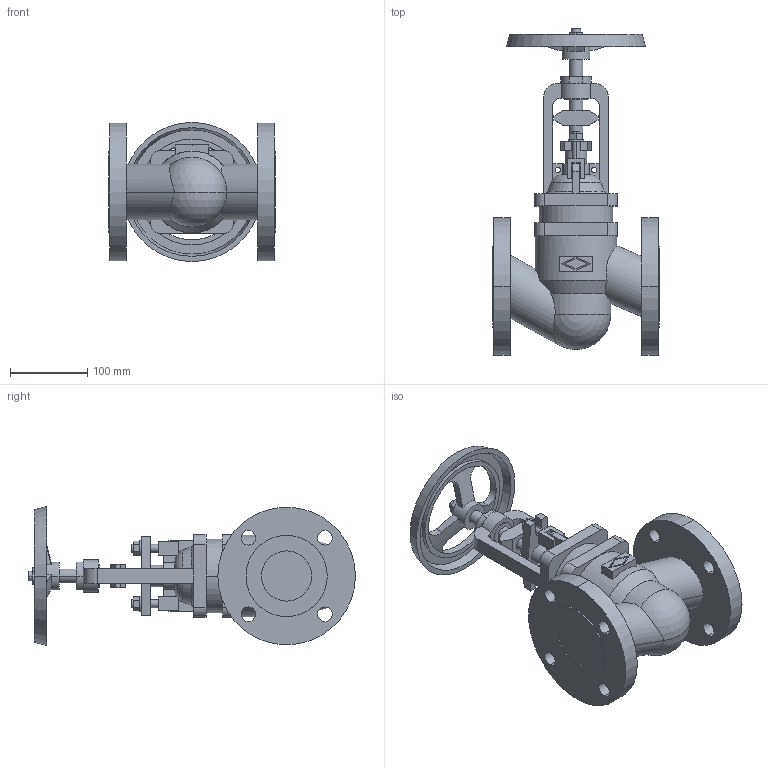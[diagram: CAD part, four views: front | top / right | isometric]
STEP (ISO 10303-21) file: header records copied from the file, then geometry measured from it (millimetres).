
FILE_DESCRIPTION(('OneSpaceDesigner STEP Export'),'2;1');
FILE_NAME('c000004225.stp','2010-04-30T 9:26:23',(''),(''),'OneSpace Designer STEP processor for AP214 (Solid Model)','OneSpace Modeling 15.50B 03-Nov-2007 (C) CoCreate Software GmbH','');
FILE_SCHEMA(('AUTOMOTIVE_DESIGN { 1 0 10303 214 1 1 1 1 }'));
Length unit declared in the file: millimetre
Products named in the file (1): 1
Bounding box: 216 x 422.9 x 180 mm (x, y, z)
Volume: 3440627.6 mm3; surface area: 337991.2 mm2
Topology: 1 solids, 1 shells, 289 faces, 769 edges, 504 vertices
Faces by surface type: plane 148, cylinder 107, cone 20, torus 12, sphere 2
Entity records: 11674 total; most frequent: CARTESIAN_POINT 2496, ORIENTED_EDGE 1534, DIRECTION 1257, EDGE_CURVE 767, VERTEX_POINT 504, AXIS2_PLACEMENT_3D 420, VECTOR 417, LINE 417
